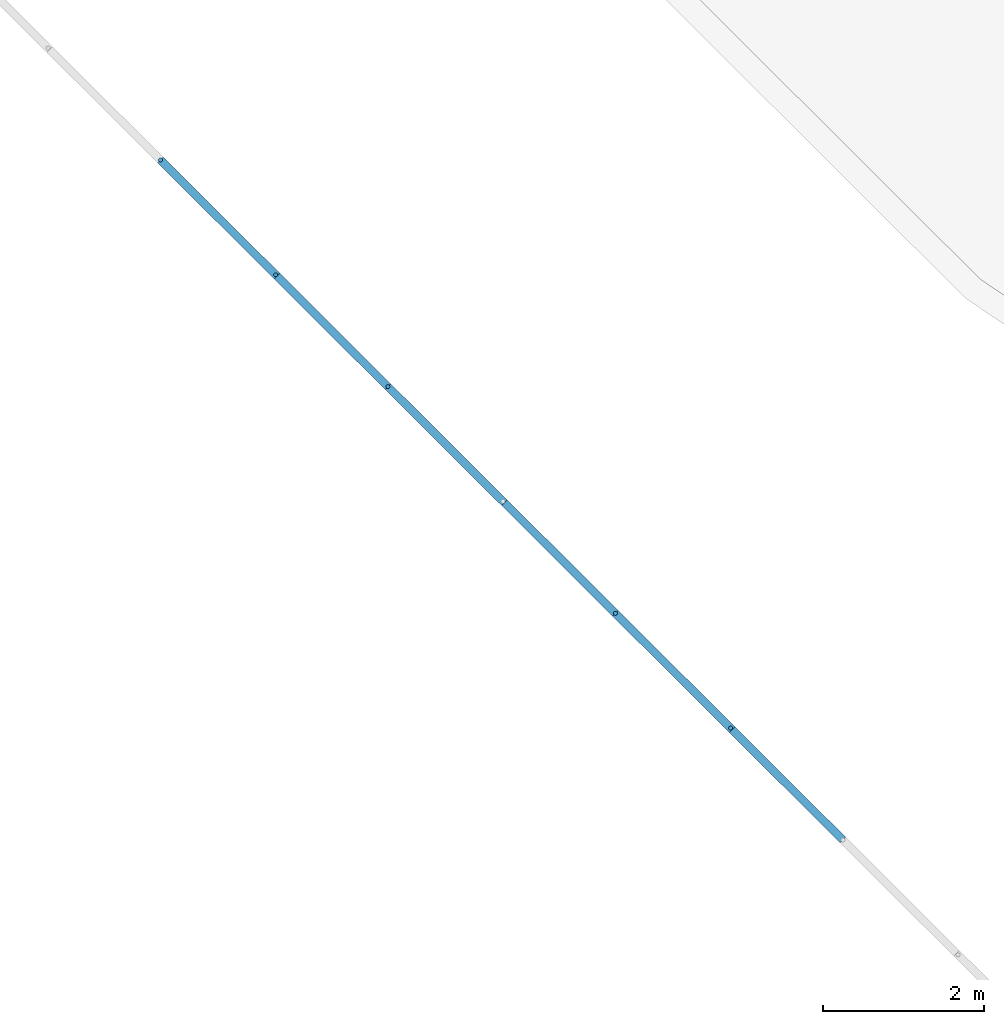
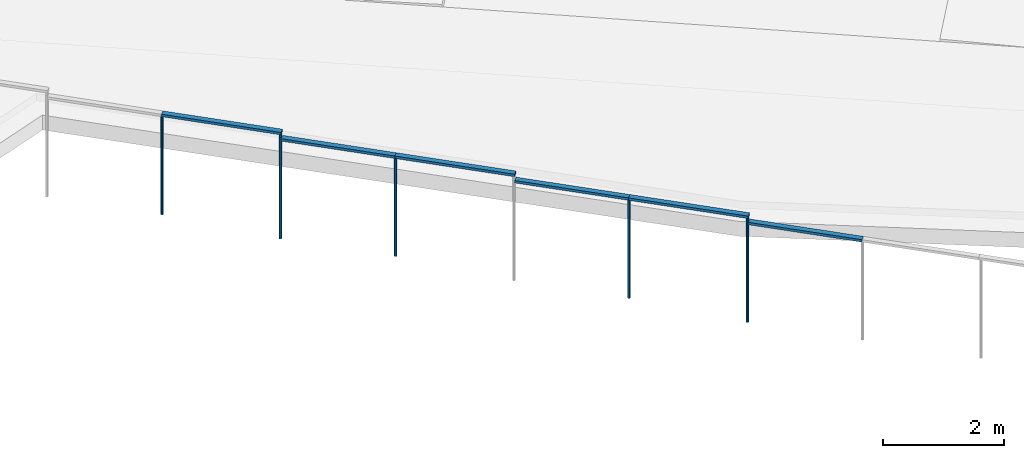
# One storey, part 5 of 33: 13 members, 4 elements without a shape of their own.
"""IFC2X3 building model written with IfcOpenShell, lengths in metres."""

from ifc_helpers import new_model, entity, si_unit, converted_unit, derived_unit, direction, frame, frame_2d, origin, origin_2d_with_axis, place, context, subcontext, project, spatial, rectangle, circle, extrude, source, transform, mapped, material, type_object, type_shapes, element, aggregate, save


model = new_model("IFC2X3")

# Units and contexts
model_context = context("Model", 3, precision=1e-05, world=origin(), true_north=direction((6.123031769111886e-17, 1.0)))
body_context = subcontext(model_context, "Body", "Model", "MODEL_VIEW")
ifc_project = project(units=[si_unit("LENGTHUNIT", "METRE"), si_unit("AREAUNIT", "SQUARE_METRE"), si_unit("VOLUMEUNIT", "CUBIC_METRE"), converted_unit("PLANEANGLEUNIT", "DEGREE", entity("IfcRatioMeasure", 0.017453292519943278), si_unit("PLANEANGLEUNIT", "RADIAN"), dimensions=[0, 0, 0, 0, 0, 0, 0]), si_unit("MASSUNIT", "GRAM", prefix="KILO"), derived_unit("MASSDENSITYUNIT", [(si_unit("MASSUNIT", "GRAM", prefix="KILO"), 1), (si_unit("LENGTHUNIT", "METRE"), -3)]), derived_unit("IONCONCENTRATIONUNIT", [(si_unit("MASSUNIT", "GRAM", prefix="KILO"), 1), (si_unit("LENGTHUNIT", "METRE"), -3)]), derived_unit("MOMENTOFINERTIAUNIT", [(si_unit("LENGTHUNIT", "METRE"), 4)]), si_unit("TIMEUNIT", "SECOND"), si_unit("FREQUENCYUNIT", "HERTZ"), si_unit("THERMODYNAMICTEMPERATUREUNIT", "DEGREE_CELSIUS"), derived_unit("THERMALTRANSMITTANCEUNIT", [(si_unit("MASSUNIT", "GRAM", prefix="KILO"), 1), (si_unit("THERMODYNAMICTEMPERATUREUNIT", "KELVIN"), -1), (si_unit("TIMEUNIT", "SECOND"), -3)]), derived_unit("THERMALCONDUCTANCEUNIT", [(si_unit("MASSUNIT", "GRAM", prefix="KILO"), 1), (si_unit("THERMODYNAMICTEMPERATUREUNIT", "KELVIN"), -1), (si_unit("TIMEUNIT", "SECOND"), -3), (si_unit("LENGTHUNIT", "METRE"), 1)]), derived_unit("VOLUMETRICFLOWRATEUNIT", [(si_unit("LENGTHUNIT", "METRE"), 3), (si_unit("TIMEUNIT", "SECOND"), -1)]), derived_unit("MASSFLOWRATEUNIT", [(si_unit("MASSUNIT", "GRAM", prefix="KILO"), 1), (si_unit("TIMEUNIT", "SECOND"), -1)]), derived_unit("ROTATIONALFREQUENCYUNIT", [(si_unit("TIMEUNIT", "SECOND"), -1)]), si_unit("ELECTRICCURRENTUNIT", "AMPERE"), si_unit("ELECTRICVOLTAGEUNIT", "VOLT"), si_unit("POWERUNIT", "WATT"), si_unit("FORCEUNIT", "NEWTON", prefix="KILO"), si_unit("ILLUMINANCEUNIT", "LUX"), si_unit("LUMINOUSFLUXUNIT", "LUMEN"), si_unit("LUMINOUSINTENSITYUNIT", "CANDELA"), derived_unit("USERDEFINED", [(si_unit("MASSUNIT", "GRAM", prefix="KILO"), -1), (si_unit("LENGTHUNIT", "METRE"), -2), (si_unit("TIMEUNIT", "SECOND"), 3), (si_unit("LUMINOUSFLUXUNIT", "LUMEN"), 1)]), derived_unit("USERDEFINED", [(si_unit("MASSUNIT", "GRAM", prefix="KILO"), 1), (si_unit("TIMEUNIT", "SECOND"), -3), (si_unit("LENGTHUNIT", "METRE"), 3), (si_unit("ELECTRICCURRENTUNIT", "AMPERE"), -2)]), derived_unit("SOUNDPOWERUNIT", [(si_unit("MASSUNIT", "GRAM", prefix="KILO"), 1), (si_unit("TIMEUNIT", "SECOND"), -3), (si_unit("LENGTHUNIT", "METRE"), 2)]), derived_unit("SOUNDPRESSUREUNIT", [(si_unit("MASSUNIT", "GRAM", prefix="KILO"), 1), (si_unit("LENGTHUNIT", "METRE"), -1), (si_unit("TIMEUNIT", "SECOND"), -2)]), derived_unit("LINEARVELOCITYUNIT", [(si_unit("LENGTHUNIT", "METRE"), 1), (si_unit("TIMEUNIT", "SECOND"), -1)]), si_unit("PRESSUREUNIT", "PASCAL"), derived_unit("USERDEFINED", [(si_unit("MASSUNIT", "GRAM", prefix="KILO"), 1), (si_unit("LENGTHUNIT", "METRE"), -2), (si_unit("TIMEUNIT", "SECOND"), -2)]), derived_unit("LINEARFORCEUNIT", [(si_unit("MASSUNIT", "GRAM", prefix="KILO"), 1), (si_unit("TIMEUNIT", "SECOND"), -2)]), derived_unit("PLANARFORCEUNIT", [(si_unit("MASSUNIT", "GRAM", prefix="KILO"), 1), (si_unit("LENGTHUNIT", "METRE"), -1), (si_unit("TIMEUNIT", "SECOND"), -2)]), derived_unit("SPECIFICHEATCAPACITYUNIT", [(si_unit("THERMODYNAMICTEMPERATUREUNIT", "KELVIN"), -1), (si_unit("LENGTHUNIT", "METRE"), 2), (si_unit("TIMEUNIT", "SECOND"), -2)]), derived_unit("HEATINGVALUEUNIT", [(si_unit("LENGTHUNIT", "METRE"), 2), (si_unit("TIMEUNIT", "SECOND"), -2)]), derived_unit("VAPORPERMEABILITYUNIT", [(si_unit("LENGTHUNIT", "METRE"), -1), (si_unit("TIMEUNIT", "SECOND"), 1)]), derived_unit("DYNAMICVISCOSITYUNIT", [(si_unit("MASSUNIT", "GRAM", prefix="KILO"), 1), (si_unit("TIMEUNIT", "SECOND"), -1), (si_unit("LENGTHUNIT", "METRE"), -1)]), derived_unit("THERMALEXPANSIONCOEFFICIENTUNIT", [(si_unit("THERMODYNAMICTEMPERATUREUNIT", "KELVIN"), -1)]), derived_unit("MODULUSOFELASTICITYUNIT", [(si_unit("MASSUNIT", "GRAM", prefix="KILO"), 1), (si_unit("LENGTHUNIT", "METRE"), -1), (si_unit("TIMEUNIT", "SECOND"), -2)]), derived_unit("ISOTHERMALMOISTURECAPACITYUNIT", [(si_unit("LENGTHUNIT", "METRE"), 3), (si_unit("MASSUNIT", "GRAM", prefix="KILO"), -1)]), derived_unit("MOISTUREDIFFUSIVITYUNIT", [(si_unit("TIMEUNIT", "SECOND"), -1), (si_unit("LENGTHUNIT", "METRE"), 2)])], contexts=[model_context])

# Site, building, storey
site_placement = place(None, origin())
site = spatial("IfcSite", under=ifc_project, at=site_placement, Name="Superficie", CompositionType="ELEMENT")
building_placement = place(site_placement, frame((0.0, 0.0, 235.0), z_axis=(0.0, 0.0, 1.0), x_axis=(-0.7996477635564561, 0.6004693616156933, 0.0)))
building = spatial("IfcBuilding", under=site, at=building_placement, CompositionType="ELEMENT")
storey_placement = place(building_placement, origin())
storey = spatial("IfcBuildingStorey", under=building, at=storey_placement, Name="P0- Escola", CompositionType="ELEMENT", Elevation=0.0)

# Curtain wall, member
curtain_wall_type = type_object("IfcCurtainWallType", Name="Muro cortina:SER EXT- Tanca exterior", PredefinedType="NOTDEFINED")
curtain_wall_1_placement = place(storey_placement, origin())
curtain_wall_1 = element("IfcCurtainWall", 1, at=curtain_wall_1_placement, inside=storey, type_object=curtain_wall_type, Name="Muro cortina:SER EXT- Tanca exterior", ObjectType="Muro cortina:SER EXT- Tanca exterior")
ifc_material_1 = material(Name="Acero inoxidable")
member_type_1 = type_object("IfcMemberType", Name="Montante circular:Perfil Tanca exterior", PredefinedType="MULLION", material=ifc_material_1)
shared_shape_1 = source(origin(), body_context, "Body", "SweptSolid", [
    extrude(circle(Radius=0.025, at=frame_2d((-2.1149748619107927e-18, -4.0388614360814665e-17), x_axis=(1.0, 0.0))), frame((0.0, 0.0, -2.0), z_axis=(0.0, 0.0, 1.0), x_axis=(-1.0, 0.0, 0.0)), (0.0, 0.0, 1.0), 1.9999999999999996),
])
type_shapes(member_type_1, [shared_shape_1])
member_1_placement = place(curtain_wall_1_placement, frame((44.85559573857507, -8.830593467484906, 2.0949999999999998), z_axis=(0.0, 0.0, -1.0), x_axis=(0.9902804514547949, -0.1390849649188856, 0.0)))
member_1 = element("IfcMember", 2, at=member_1_placement, type_object=member_type_1, material=ifc_material_1, Name="Montante circular:Perfil Tanca exterior", ObjectType="Montante circular:Perfil Tanca exterior", context=body_context, shape_type="MappedRepresentation", body=[
    mapped(shared_shape_1, transform((0.0, 0.0, 0.0), scale=1.0)),
])

curtain_wall_2_placement = place(storey_placement, origin())
curtain_wall_2 = element("IfcCurtainWall", 3, at=curtain_wall_2_placement, inside=storey, type_object=curtain_wall_type, Name="Muro cortina:SER EXT- Tanca exterior", ObjectType="Muro cortina:SER EXT- Tanca exterior")
member_2_placement = place(curtain_wall_2_placement, frame((48.81671752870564, -9.386933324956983, 2.2199999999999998), z_axis=(0.0, 0.0, -1.0), x_axis=(0.9902804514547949, -0.13908496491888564, 0.0)))
member_2 = element("IfcMember", 4, at=member_2_placement, type_object=member_type_1, material=ifc_material_1, Name="Montante circular:Perfil Tanca exterior", ObjectType="Montante circular:Perfil Tanca exterior", context=body_context, shape_type="MappedRepresentation", body=[
    mapped(shared_shape_1, transform((0.0, 0.0, 0.0), scale=1.0)),
])

curtain_wall_3_placement = place(storey_placement, origin())
curtain_wall_3 = element("IfcCurtainWall", 5, at=curtain_wall_3_placement, inside=storey, type_object=curtain_wall_type, Name="Muro cortina:SER EXT- Tanca exterior", ObjectType="Muro cortina:SER EXT- Tanca exterior")
member_3_placement = place(curtain_wall_3_placement, frame((52.77783931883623, -9.943273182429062, 2.3449999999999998), z_axis=(0.0, 0.0, -1.0), x_axis=(0.9902804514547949, -0.1390849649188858, 0.0)))
member_3 = element("IfcMember", 6, at=member_3_placement, type_object=member_type_1, material=ifc_material_1, Name="Montante circular:Perfil Tanca exterior", ObjectType="Montante circular:Perfil Tanca exterior", context=body_context, shape_type="MappedRepresentation", body=[
    mapped(shared_shape_1, transform((0.0, 0.0, 0.0), scale=1.0)),
])

# Member
member_type_2 = type_object("IfcMemberType", Name="Montante circular:Perfil Tanca exterior", PredefinedType="MULLION", material=ifc_material_1)
shared_shape_2 = source(origin(), body_context, "Body", "SweptSolid", [
    extrude(circle(Radius=0.025, at=frame_2d((-1.304992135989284e-31, 4.038861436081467e-17), x_axis=(1.0, 0.0))), frame((-0.025, 0.0, -2.0)), (0.0, 0.0, 1.0), 1.9999999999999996),
])
type_shapes(member_type_2, [shared_shape_2])
member_4_placement = place(curtain_wall_1_placement, frame((42.82552082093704, -8.545469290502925, 4.094999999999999), z_axis=(0.0, 0.0, 1.0), x_axis=(-0.9902804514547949, 0.1390849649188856, 0.0)))
member_4 = element("IfcMember", 7, at=member_4_placement, type_object=member_type_2, material=ifc_material_1, Name="Montante circular:Perfil Tanca exterior", ObjectType="Montante circular:Perfil Tanca exterior", context=body_context, shape_type="MappedRepresentation", body=[
    mapped(shared_shape_2, transform((0.0, 0.0, 0.0), scale=1.0)),
])

member_5_placement = place(curtain_wall_3_placement, frame((50.7477644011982, -9.65814900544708, 4.345), z_axis=(0.0, 0.0, 1.0), x_axis=(-0.9902804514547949, 0.1390849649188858, 0.0)))
member_5 = element("IfcMember", 8, at=member_5_placement, type_object=member_type_2, material=ifc_material_1, Name="Montante circular:Perfil Tanca exterior", ObjectType="Montante circular:Perfil Tanca exterior", context=body_context, shape_type="MappedRepresentation", body=[
    mapped(shared_shape_2, transform((0.0, 0.0, 0.0), scale=1.0)),
])

ifc_material_2 = material(Name="_Formigó- Solera- T1- STR")
member_type_3 = type_object("IfcMemberType", Name="Montante rectangular:Montante rectangular 100x50", PredefinedType="MULLION", material=ifc_material_2)
shared_shape_3 = source(origin(), body_context, "Body", "SweptSolid", [
    extrude(rectangle(XDim=0.1, YDim=0.05000000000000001, at=origin_2d_with_axis()), frame((-0.025000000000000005, 0.0, -2.0499999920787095), z_axis=(0.0, 0.0, 1.0), x_axis=(0.0, -1.0, 0.0)), (0.0, 0.0, 1.0), 2.04999999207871),
])
type_shapes(member_type_3, [shared_shape_3])
member_6_placement = place(curtain_wall_1_placement, frame((44.85559573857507, -8.830593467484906, 4.145), z_axis=(0.9902804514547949, -0.13908496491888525, 0.0), x_axis=(0.0, 0.0, 1.0)))
member_6 = element("IfcMember", 9, at=member_6_placement, type_object=member_type_3, material=ifc_material_2, Name="Montante rectangular:Montante rectangular 100x50", ObjectType="Montante rectangular:Montante rectangular 100x50", context=body_context, shape_type="MappedRepresentation", body=[
    mapped(shared_shape_3, transform((0.0, 0.0, 0.0), scale=1.0)),
])

member_7_placement = place(curtain_wall_2_placement, frame((48.81671752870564, -9.386933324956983, 4.27), z_axis=(0.9902804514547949, -0.13908496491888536, 0.0), x_axis=(0.0, 0.0, 1.0)))
member_7 = element("IfcMember", 10, at=member_7_placement, type_object=member_type_3, material=ifc_material_2, Name="Montante rectangular:Montante rectangular 100x50", ObjectType="Montante rectangular:Montante rectangular 100x50", context=body_context, shape_type="MappedRepresentation", body=[
    mapped(shared_shape_3, transform((0.0, 0.0, 0.0), scale=1.0)),
])

member_8_placement = place(curtain_wall_3_placement, frame((52.77783931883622, -9.94327318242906, 4.395), z_axis=(0.9902804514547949, -0.1390849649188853, 0.0), x_axis=(0.0, 0.0, 1.0)))
member_8 = element("IfcMember", 11, at=member_8_placement, type_object=member_type_3, material=ifc_material_2, Name="Montante rectangular:Montante rectangular 100x50", ObjectType="Montante rectangular:Montante rectangular 100x50", context=body_context, shape_type="MappedRepresentation", body=[
    mapped(shared_shape_3, transform((0.0, 0.0, 0.0), scale=1.0)),
])

aggregate(curtain_wall_3, [member_5, member_3, member_8])

# Curtain wall, member
curtain_wall_4_placement = place(storey_placement, origin())
curtain_wall_4 = element("IfcCurtainWall", 12, at=curtain_wall_4_placement, inside=storey, type_object=curtain_wall_type, Name="Muro cortina:SER EXT- Tanca exterior", ObjectType="Muro cortina:SER EXT- Tanca exterior")
member_type_4 = type_object("IfcMemberType", Name="Montante circular:Perfil Tanca exterior", PredefinedType="MULLION", material=ifc_material_1)
shared_shape_4 = source(origin(), body_context, "Body", "SweptSolid", [
    extrude(circle(Radius=0.025, at=frame_2d((1.3661718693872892e-31, -4.46185640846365e-17), x_axis=(1.0, 0.0))), frame((-0.025, 0.0, -2.0499999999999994), z_axis=(0.0, 0.0, 1.0), x_axis=(-1.0, 0.0, 0.0)), (0.0, 0.0, 1.0), 2.0499999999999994),
])
type_shapes(member_type_4, [shared_shape_4])
member_9_placement = place(curtain_wall_4_placement, frame((42.87503484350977, -8.552423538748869, 1.97), z_axis=(0.0, 0.0, -1.0), x_axis=(0.9902804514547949, -0.13908496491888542, 0.0)))
member_9 = element("IfcMember", 13, at=member_9_placement, type_object=member_type_4, material=ifc_material_1, Name="Montante circular:Perfil Tanca exterior", ObjectType="Montante circular:Perfil Tanca exterior", context=body_context, shape_type="MappedRepresentation", body=[
    mapped(shared_shape_4, transform((0.0, 0.0, 0.0), scale=1.0)),
])

# Member
member_10_placement = place(curtain_wall_2_placement, frame((50.797278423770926, -9.665103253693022, 2.2199999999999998), z_axis=(0.0, 0.0, -1.0), x_axis=(0.9902804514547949, -0.13908496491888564, 0.0)))
member_10 = element("IfcMember", 14, at=member_10_placement, type_object=member_type_4, material=ifc_material_1, Name="Montante circular:Perfil Tanca exterior", ObjectType="Montante circular:Perfil Tanca exterior", context=body_context, shape_type="MappedRepresentation", body=[
    mapped(shared_shape_4, transform((0.0, 0.0, 0.0), scale=1.0)),
])

member_type_5 = type_object("IfcMemberType", Name="Montante rectangular:Montante rectangular 100x50", PredefinedType="MULLION", material=ifc_material_2)
shared_shape_5 = source(origin(), body_context, "Body", "SweptSolid", [
    extrude(rectangle(XDim=0.1, YDim=0.05000000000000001, at=origin_2d_with_axis()), frame((-0.025000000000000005, 0.0, -1.9499999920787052), z_axis=(0.0, 0.0, 1.0), x_axis=(0.0, -1.0, 0.0)), (0.0, 0.0, 1.0), 1.9499999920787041),
])
type_shapes(member_type_5, [shared_shape_5])
member_11_placement = place(curtain_wall_4_placement, frame((42.82552082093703, -8.545469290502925, 4.02), z_axis=(0.9902804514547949, -0.13908496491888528, 0.0), x_axis=(0.0, 0.0, 1.0)))
member_11 = element("IfcMember", 15, at=member_11_placement, type_object=member_type_5, material=ifc_material_2, Name="Montante rectangular:Montante rectangular 100x50", ObjectType="Montante rectangular:Montante rectangular 100x50", context=body_context, shape_type="MappedRepresentation", body=[
    mapped(shared_shape_5, transform((0.0, 0.0, 0.0), scale=1.0)),
])

aggregate(curtain_wall_4, [member_9, member_11])

member_12_placement = place(curtain_wall_1_placement, frame((46.78664261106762, -9.101809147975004, 4.145), z_axis=(0.9902804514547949, -0.1390849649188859, 0.0), x_axis=(0.0, 0.0, 1.0)))
member_12 = element("IfcMember", 16, at=member_12_placement, type_object=member_type_5, material=ifc_material_2, Name="Montante rectangular:Montante rectangular 100x50", ObjectType="Montante rectangular:Montante rectangular 100x50", context=body_context, shape_type="MappedRepresentation", body=[
    mapped(shared_shape_5, transform((0.0, 0.0, 0.0), scale=1.0)),
])

aggregate(curtain_wall_1, [member_4, member_1, member_12, member_6])

member_13_placement = place(curtain_wall_2_placement, frame((50.7477644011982, -9.65814900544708, 4.27), z_axis=(0.9902804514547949, -0.1390849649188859, 0.0), x_axis=(0.0, 0.0, 1.0)))
member_13 = element("IfcMember", 17, at=member_13_placement, type_object=member_type_5, material=ifc_material_2, Name="Montante rectangular:Montante rectangular 100x50", ObjectType="Montante rectangular:Montante rectangular 100x50", context=body_context, shape_type="MappedRepresentation", body=[
    mapped(shared_shape_5, transform((0.0, 0.0, 0.0), scale=1.0)),
])

aggregate(curtain_wall_2, [member_2, member_10, member_13, member_7])

save(model, "model.ifc")
